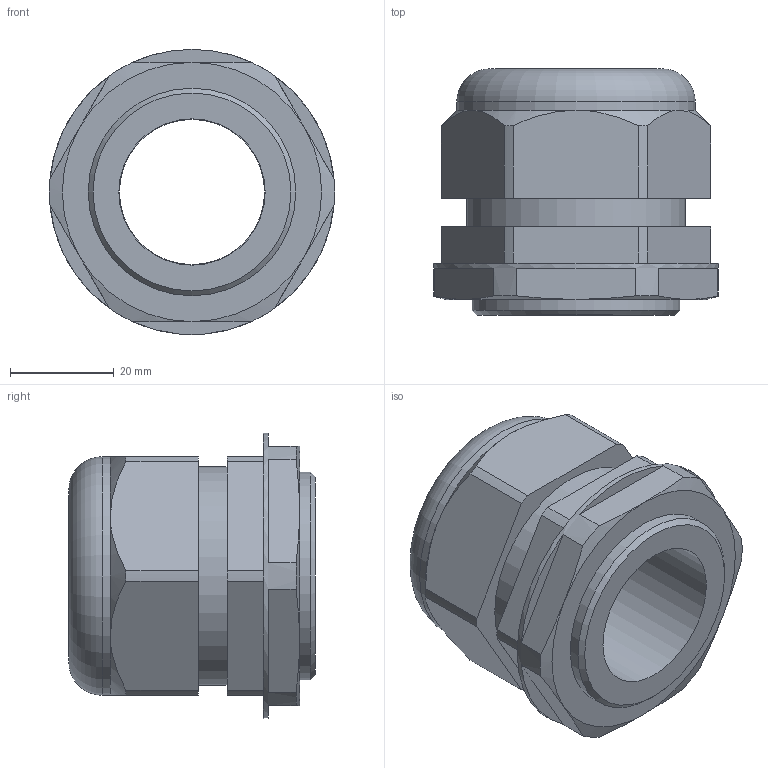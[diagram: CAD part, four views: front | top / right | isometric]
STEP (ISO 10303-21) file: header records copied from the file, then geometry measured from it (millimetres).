
FILE_DESCRIPTION(/* description */ (''),/* implementation_level */ '2;1');
FILE_NAME(/* name */ 'K:\ПРОЕКТЫ\2020\2020-06-09 - Модели GK xx M\OK - GK 40 M.stp',/* time_stamp */ '2020-06-10T09:32:51+03:00',/* author */ ('torgashev_an'),/* organization */ (''),/* preprocessor_version */ 'ST-DEVELOPER v18',/* originating_system */ 'Autodesk Inventor 2020',/* authorisation */ '');
FILE_SCHEMA (('AUTOMOTIVE_DESIGN { 1 0 10303 214 3 1 1 }'));
Length unit declared in the file: millimetre
Products named in the file (1): Деталь1
Bounding box: 55 x 47.5 x 55 mm (x, y, z)
Volume: 53207.5 mm3; surface area: 18478.1 mm2
Topology: 2 solids, 2 shells, 70 faces, 182 edges, 121 vertices
Faces by surface type: plane 33, cylinder 20, cone 16, torus 1
Full cylindrical faces by diameter (mm): 28 x1, 28.2 x2, 38.376 x1, 40 x1, 42.2 x1, 46 x1, 55 x1
Entity records: 3704 total; most frequent: CARTESIAN_POINT 1873, DIRECTION 386, ORIENTED_EDGE 364, EDGE_CURVE 182, AXIS2_PLACEMENT_3D 157, VERTEX_POINT 121, CIRCLE 86, EDGE_LOOP 79
